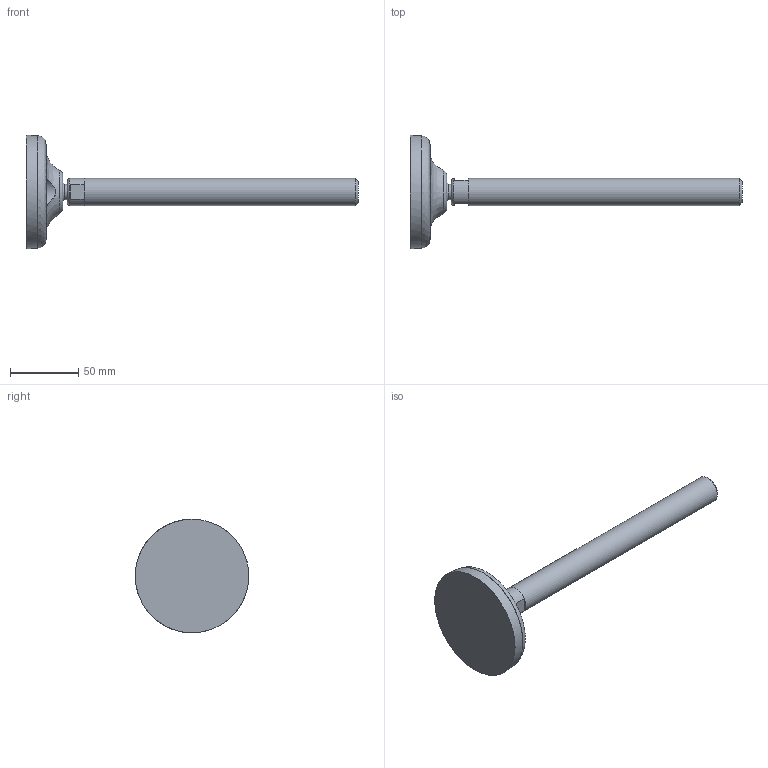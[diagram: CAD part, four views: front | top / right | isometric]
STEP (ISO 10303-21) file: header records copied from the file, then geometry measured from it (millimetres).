
FILE_DESCRIPTION(('STEP AP203'),'2;1');
FILE_NAME('10098.stp','2013-12-16T08:30:11',(''),(''),'2008.1.107','THINKDESIGN','');
FILE_SCHEMA(('CONFIG_CONTROL_DESIGN'));
Length unit declared in the file: millimetre
Bounding box: 242.5 x 83 x 83 mm (x, y, z)
Volume: 66375.9 mm3; surface area: 29086.5 mm2
Topology: 2 solids, 2 shells, 27 faces, 71 edges, 52 vertices
Faces by surface type: plane 15, bspline 7, cylinder 5
Full cylindrical faces by diameter (mm): 11.64 x1, 20 x2
Entity records: 1511 total; most frequent: CARTESIAN_POINT 829, DIRECTION 119, ORIENTED_EDGE 54, AXIS2_PLACEMENT_3D 52, COMPOSITE_CURVE_SEGMENT 44, CIRCLE 32, EDGE_CURVE 27, VERTEX_POINT 19
